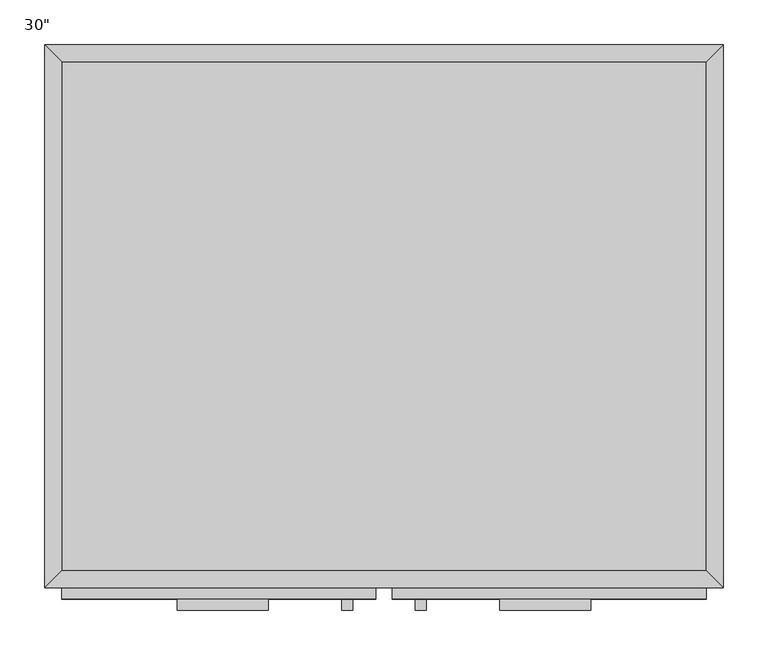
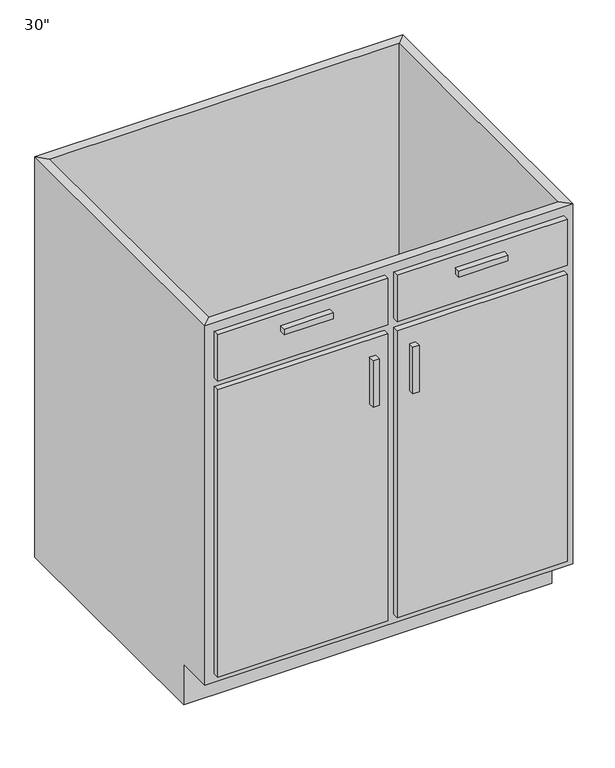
"""IFC4 building model written with IfcOpenShell, lengths in millimetres: furniture geometry."""

from ifc_helpers import new_model, si_unit, frame, origin, place, context, project, spatial, polyline, outline, extrude, faceted_brep, source, transform, mapped, element, save


def furniture_338da5bd(model_context):
    return source(origin(), model_context, "Body", "SolidModel", [
        faceted_brep([(380.6877049, -590.55, 876.3), (380.6877049, -590.55, 88.9), (-343.2122951, -590.55, 88.9), (-343.2122951, -590.55, 876.3), (-362.2622951, -609.6, 876.3), (399.7377049, -609.6, 876.3), (-362.2622951, -609.6, 88.9), (399.7377049, -609.6, 88.9), (-343.2122951, -533.4, 88.9), (-343.2122951, -19.05, 88.9), (-343.2122951, -19.05, 876.3), (-362.2622951, 0.0, 876.3), (-362.2622951, 0.0, 0.0), (-362.2622951, -533.4, 0.0), (-362.2622951, -533.4, 88.9), (380.6877049, -19.05, 88.9), (380.6877049, -19.05, 876.3), (399.7377049, 0.0, 876.3), (399.7377049, 0.0, 0.0), (380.6877049, -533.4, 88.9), (399.7377049, -533.4, 88.9), (399.7377049, -533.4, 0.0)], [[[0, 1, 2, 3]], [[0, 3, 4, 5]], [[5, 4, 6, 7]], [[2, 1, 7, 6]], [[3, 2, 8, 9, 10]], [[4, 3, 10, 11]], [[6, 4, 11, 12, 13, 14]], [[2, 6, 14, 8]], [[10, 9, 15, 16]], [[11, 10, 16, 17]], [[12, 11, 17, 18]], [[1, 0, 16, 15, 19]], [[0, 5, 17, 16]], [[5, 7, 20, 21, 18, 17]], [[7, 1, 19, 20]], [[8, 19, 15, 9]], [[18, 21, 13, 12]], [[13, 21, 20, 19, 8, 14]]]),
        extrude(outline(polyline([(-111.4372951, -635.0), (-213.0372951, -635.0), (-213.0372951, -622.3), (-111.4372951, -622.3), (-111.4372951, -635.0)])), frame((0.0, 0.0, 819.15), z_axis=(0.0, 0.0, 1.0), x_axis=(1.0, 0.0, 0.0)), (0.0, 0.0, 1.0), 12.7),
        extrude(outline(polyline([(250.5127049, -635.0), (148.9127049, -635.0), (148.9127049, -622.3), (250.5127049, -622.3), (250.5127049, -635.0)])), frame((0.0, 0.0, 819.15), z_axis=(0.0, 0.0, 1.0), x_axis=(1.0, 0.0, 0.0)), (0.0, 0.0, 1.0), 12.7),
        extrude(outline(polyline([(-16.1872951, -635.0), (-28.8872951, -635.0), (-28.8872951, -622.3), (-16.1872951, -622.3), (-16.1872951, -635.0)])), frame((0.0, 0.0, 596.9), z_axis=(0.0, 0.0, 1.0), x_axis=(1.0, 0.0, 0.0)), (0.0, 0.0, 1.0), 101.6),
        extrude(outline(polyline([(66.3627049, -635.0), (53.6627049, -635.0), (53.6627049, -622.3), (66.3627049, -622.3), (66.3627049, -635.0)])), frame((0.0, 0.0, 596.9), z_axis=(0.0, 0.0, 1.0), x_axis=(1.0, 0.0, 0.0)), (0.0, 0.0, 1.0), 101.6),
        extrude(outline(polyline([(380.6877049, -19.05), (380.6877049, -590.55), (-343.2122951, -590.55), (-343.2122951, -19.05), (380.6877049, -19.05)])), frame((0.0, 0.0, 88.9), z_axis=(0.0, 0.0, 1.0), x_axis=(1.0, 0.0, 0.0)), (0.0, 0.0, 1.0), 19.05),
        extrude(outline(polyline([(9.2127049, -622.3), (-343.2122951, -622.3), (-343.2122951, -609.6), (9.2127049, -609.6), (9.2127049, -622.3)])), frame((0.0, 0.0, 755.65), z_axis=(0.0, 0.0, 1.0), x_axis=(1.0, 0.0, 0.0)), (0.0, 0.0, 1.0), 101.6),
        extrude(outline(polyline([(380.6877049, -622.3), (28.2627049, -622.3), (28.2627049, -609.6), (380.6877049, -609.6), (380.6877049, -622.3)])), frame((0.0, 0.0, 755.65), z_axis=(0.0, 0.0, 1.0), x_axis=(1.0, 0.0, 0.0)), (0.0, 0.0, 1.0), 101.6),
        extrude(outline(polyline([(9.2127049, -622.3), (-343.2122951, -622.3), (-343.2122951, -609.6), (9.2127049, -609.6), (9.2127049, -622.3)])), frame((0.0, 0.0, 107.95), z_axis=(0.0, 0.0, 1.0), x_axis=(1.0, 0.0, 0.0)), (0.0, 0.0, 1.0), 628.65),
        extrude(outline(polyline([(380.6877049, -622.3), (28.2627049, -622.3), (28.2627049, -609.6), (380.6877049, -609.6), (380.6877049, -622.3)])), frame((0.0, 0.0, 107.95), z_axis=(0.0, 0.0, 1.0), x_axis=(1.0, 0.0, 0.0)), (0.0, 0.0, 1.0), 628.65),
    ])


if __name__ == "__main__":
    model = new_model("IFC4")
    model_context = context("Model", 3, world=origin())
    ifc_project = project(units=[si_unit("LENGTHUNIT", "METRE", prefix="MILLI")], contexts=[model_context])
    site = spatial("IfcSite", under=ifc_project)
    building = spatial("IfcBuilding", under=site)
    placement = place(None, origin())
    furniture_shape = furniture_338da5bd(model_context)
    element("IfcFurniture", 1, ObjectType="Base Cabinet-Double Door & 2 Drawer : 30\"", at=placement, inside=building, context=model_context, shape_type="MappedRepresentation", body=[
        mapped(furniture_shape, transform((0.0, 0.0, 0.0), x_axis=(1.0, 0.0, 0.0), y_axis=(0.0, 1.0, 0.0), z_axis=(0.0, 0.0, 1.0))),
    ])
    save(model, "model.ifc")
